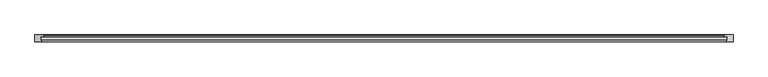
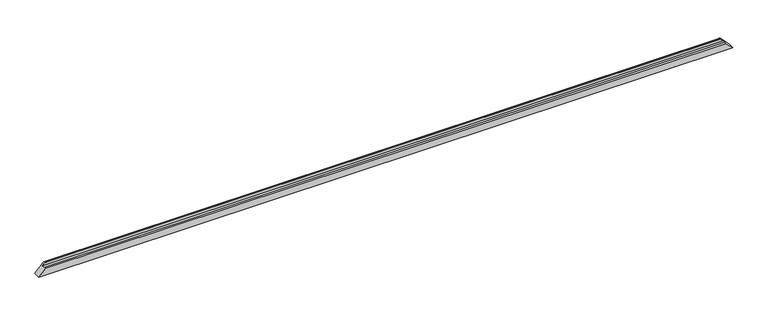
"""IFC4 building model written with IfcOpenShell, lengths in millimetres: proxy geometry, Weiku - Montante - Caixilho 02.2.01.005 : Weiku - Montante - Caixilho 02.2.01.005."""

import ifcopenshell
import ifcopenshell.guid

model = None  # the IFC model being written
_history = None  # IfcOwnerHistory: only IFC2X3 demands one
_inside = {}  # id of a spatial element -> (the spatial element, [elements in it])
_under = {}  # id of a project, library or spatial element -> (it, [spatial elements below it])
_declared = {}  # id of a project -> (the project, [libraries it declares])
_typed = {}  # id of a type object -> (the type object, [elements of that type])
_made_of = {}  # id of a material, layer set ... -> (it, [elements and type objects made of it])


def new_model(schema):
    """Start an empty IFC model of exactly this schema.

    Asked for "IFC4X3", IfcOpenShell would pick the latest addendum, in which some entities
    have other attributes; the version numbers below select the first issue.
    IFC2X3 requires an IfcOwnerHistory on every rooted entity: one is made here for all.
    """
    global model, _history
    if schema == "IFC4X3":
        model = ifcopenshell.file(schema_version=(4, 3, 0, 0))
    else:
        model = ifcopenshell.file(schema=schema)
    _inside.clear()
    _under.clear()
    _declared.clear()
    _typed.clear()
    _made_of.clear()
    _history = None
    if model.schema == "IFC2X3":
        org = make("IfcOrganization", Name="unknown")
        user = make(
            "IfcPersonAndOrganization",
            ThePerson=make("IfcPerson", FamilyName="unknown"),
            TheOrganization=org,
        )
        app = make(
            "IfcApplication",
            ApplicationDeveloper=org,
            Version="unknown",
            ApplicationFullName="unknown",
            ApplicationIdentifier="unknown",
        )
        _history = make(
            "IfcOwnerHistory",
            OwningUser=user,
            OwningApplication=app,
            ChangeAction="ADDED",
            CreationDate=0,
        )
    return model


def make(cls, **values):
    """One entity of the class cls with the attributes given. An attribute that is None is left unset."""
    return model.create_entity(
        cls, **{name: value for name, value in values.items() if value is not None}
    )


def rooted(cls, **values):
    """An entity with a GlobalId (a new one), such as an element, a storey or a relation."""
    return make(cls, GlobalId=ifcopenshell.guid.new(), OwnerHistory=_history, **values)


def si_unit(unit_type, name, prefix=None):
    """IfcSIUnit, for example si_unit("LENGTHUNIT", "METRE", prefix="MILLI")."""
    return make("IfcSIUnit", UnitType=unit_type, Prefix=prefix, Name=name)


def assignment(units):
    """IfcUnitAssignment: the units of a project."""
    return None if units is None else make("IfcUnitAssignment", Units=units)


def point(xyz):
    """IfcCartesianPoint."""
    return None if xyz is None else make("IfcCartesianPoint", Coordinates=xyz)


def direction(xyz):
    """IfcDirection."""
    return None if xyz is None else make("IfcDirection", DirectionRatios=xyz)


def frame(location, z_axis=None, x_axis=None):
    """IfcAxis2Placement3D, a coordinate frame: its origin and axes. An axis left out is left unset."""
    return make(
        "IfcAxis2Placement3D",
        Location=point(location),
        Axis=direction(z_axis),
        RefDirection=direction(x_axis),
    )


def origin():
    """The frame at (0, 0, 0) with its axes left unset."""
    return frame((0.0, 0.0, 0.0))


def place(relative_to, where):
    """IfcLocalPlacement: puts the frame where relative to a parent placement (None: the world)."""
    return make(
        "IfcLocalPlacement", PlacementRelTo=relative_to, RelativePlacement=where
    )


def context(
    kind, dimensions, precision=None, world=None, true_north=None, identifier=None
):
    """IfcGeometricRepresentationContext, for example the 3D "Model" context."""
    return make(
        "IfcGeometricRepresentationContext",
        ContextIdentifier=identifier,
        ContextType=kind,
        CoordinateSpaceDimension=dimensions,
        Precision=precision,
        WorldCoordinateSystem=world,
        TrueNorth=true_north,
    )


def project(units=None, contexts=None):
    """IfcProject with its units and contexts."""
    return rooted(
        "IfcProject",
        Name="project",
        RepresentationContexts=contexts,
        UnitsInContext=assignment(units),
    )


def spatial(cls, under=None, at=None, **own):
    """A site, building, storey or space (cls), placed at a placement, below another one or the project."""
    s = rooted(cls, ObjectPlacement=at, **own)
    if under is not None:
        _under.setdefault(under.id(), (under, []))[1].append(s)
    return s


def ellipse_curve(where, semi_axis1, semi_axis2):
    """IfcEllipse in the frame where."""
    return make(
        "IfcEllipse", Position=where, SemiAxis1=semi_axis1, SemiAxis2=semi_axis2
    )


def shape(context_of_items, identifier, shape_type, items):
    """IfcShapeRepresentation: the items that make up one representation, for example the "Body"."""
    return make(
        "IfcShapeRepresentation",
        ContextOfItems=context_of_items,
        RepresentationIdentifier=identifier,
        RepresentationType=shape_type,
        Items=items,
    )


def source(mapping_origin, context_of_items, identifier, shape_type, items):
    """IfcRepresentationMap: a shape defined once, which mapped items show again and again."""
    return make(
        "IfcRepresentationMap",
        MappingOrigin=mapping_origin,
        MappedRepresentation=shape(context_of_items, identifier, shape_type, items),
    )


def transform(
    local_origin,
    x_axis=None,
    y_axis=None,
    z_axis=None,
    scale=None,
    scale2=None,
    scale3=None,
    uniform=True,
):
    """IfcCartesianTransformationOperator3D, or its non-uniform kind. x_axis, y_axis, z_axis: its Axis1, 2, 3."""
    if uniform:
        return make(
            "IfcCartesianTransformationOperator3D",
            Axis1=direction(x_axis),
            Axis2=direction(y_axis),
            LocalOrigin=point(local_origin),
            Scale=scale,
            Axis3=direction(z_axis),
        )
    return make(
        "IfcCartesianTransformationOperator3DnonUniform",
        Axis1=direction(x_axis),
        Axis2=direction(y_axis),
        LocalOrigin=point(local_origin),
        Scale=scale,
        Axis3=direction(z_axis),
        Scale2=scale2,
        Scale3=scale3,
    )


def mapped(mapping_source, mapping_target):
    """IfcMappedItem: shows the shape of a source again, moved by a transform."""
    return make(
        "IfcMappedItem", MappingSource=mapping_source, MappingTarget=mapping_target
    )


def made_of(thing, what):
    """Note that an element or type object is made of a material, layer set ...; save() writes the relation."""
    if what is not None:
        _made_of.setdefault(what.id(), (what, []))[1].append(thing)
    return thing


def element(
    cls,
    number,
    at=None,
    inside=None,
    cuts=None,
    type_object=None,
    material=None,
    context=None,
    identifier="Body",
    shape_type=None,
    held_by="IfcProductDefinitionShape",
    body=None,
    shapes=None,
    **own,
):
    """One element of the class cls, such as IfcWall. Its Tag is "e" and its number.

    at: its placement. inside: the storey or other place that contains it. cuts: it is an
    opening in that element (IfcRelVoidsElement). A single representation is given by context,
    identifier, shape_type and body (its items); several are given by shapes. held_by: the class
    of the entity that holds the representations. save() writes the other relations.
    """
    e = rooted(cls, Tag="e%d" % number, ObjectPlacement=at, **own)
    if body is not None:
        shapes = [shape(context, identifier, shape_type, body)]
    if shapes is not None:
        e.Representation = make(held_by, Representations=shapes)
    if inside is not None:
        _inside.setdefault(inside.id(), (inside, []))[1].append(e)
    if cuts is not None:
        rooted(
            "IfcRelVoidsElement", RelatingBuildingElement=cuts, RelatedOpeningElement=e
        )
    if type_object is not None:
        _typed.setdefault(type_object.id(), (type_object, []))[1].append(e)
    return made_of(e, material)


def aggregate(whole, parts):
    """IfcRelAggregates: a whole, such as a stair, and the parts it consists of."""
    return rooted("IfcRelAggregates", RelatingObject=whole, RelatedObjects=parts)


def save(model, path):
    """Write the relations noted so far, then the file.

    IfcRelAggregates (storeys below a building ...), IfcRelContainedInSpatialStructure (elements
    in a storey), IfcRelDefinesByType, IfcRelAssociatesMaterial and IfcRelDeclares: one each for
    every whole, place, type object, material and project.
    """
    for whole, parts in _under.values():
        aggregate(whole, parts)
    for where, things in _inside.values():
        rooted(
            "IfcRelContainedInSpatialStructure",
            RelatedElements=things,
            RelatingStructure=where,
        )
    for kind, things in _typed.values():
        rooted("IfcRelDefinesByType", RelatedObjects=things, RelatingType=kind)
    for what, things in _made_of.values():
        rooted("IfcRelAssociatesMaterial", RelatedObjects=things, RelatingMaterial=what)
    for by, libraries in _declared.values():
        rooted("IfcRelDeclares", RelatingContext=by, RelatedDefinitions=libraries)
    model.write(path)


def plane_surface(at):
    """IfcPlane: the flat surface through the origin of the frame at, square to its z axis."""
    return make("IfcPlane", Position=at)


def cylinder_surface(at, radius):
    """IfcCylindricalSurface: all points at the distance radius from the z axis of the frame at."""
    return make("IfcCylindricalSurface", Position=at, Radius=radius)


def advanced_brep(points, edges, surfaces, faces):
    """IfcAdvancedBrep: a solid bounded by faces that lie on surfaces and meet in shared edges.

    An edge is (start, end): straight between two places in points (the first is 0);
    or (start, end, curve); or (start, end, curve, False) where it runs against its curve.
    A face is (place in surfaces, loops), or (place, loops, False) where it looks against
    its surface's normal. A loop lists edges by number (the first is 1), with a minus sign
    where the edge is run from its end to its start. The first loop is the outer one.
    """
    corners = [point(p) for p in points]
    vertices = [make("IfcVertexPoint", VertexGeometry=c) for c in corners]
    made = []
    for start, end, *more in edges:
        made.append(
            make(
                "IfcEdgeCurve",
                EdgeStart=vertices[start],
                EdgeEnd=vertices[end],
                EdgeGeometry=more[0] if more else make("IfcPolyline", Points=[corners[start], corners[end]]),
                SameSense=more[1] if len(more) > 1 else True,
            )
        )
    hull = []
    for where, loops, *sense in faces:
        bounds = []
        for j, loop in enumerate(loops):
            ring = [make("IfcOrientedEdge", EdgeElement=made[abs(k) - 1], Orientation=k > 0) for k in loop]
            bounds.append(
                make(
                    "IfcFaceOuterBound" if j == 0 else "IfcFaceBound",
                    Bound=make("IfcEdgeLoop", EdgeList=ring),
                    Orientation=True,
                )
            )
        hull.append(make("IfcAdvancedFace", Bounds=bounds, FaceSurface=surfaces[where], SameSense=sense[0] if sense else True))
    return make("IfcAdvancedBrep", Outer=make("IfcClosedShell", CfsFaces=hull))


def generic_models_0c6a9ea4(model_context):
    return source(origin(), model_context, "Body", "AdvancedBrep", [
        advanced_brep(
        [(-2451.0, -12.5, 46.0), (2451.0, -12.5, 46.0), (2430.8909676, -12.5, 66.1090324), (-2430.8909676, -12.5, 66.1090324), (-2451.0, -37.8314286, 46.0), (2451.0, -37.8314286, 46.0), (-2448.0, -37.027581, 49.0), (2448.0, -37.027581, 49.0), (-2448.0, -50.0, 49.0), (2448.0, -50.0, 49.0), (2497.0, -50.0, 0.0), (-2497.0, -50.0, 0.0), (-2497.0, 0.0, 0.0), (2497.0, 0.0, 0.0), (-2435.4997332, 0.0, 61.5002668), (2435.4997332, 0.0, 61.5002668), (-2430.118227, -11.4929448, 66.881773), (2430.118227, -11.4929448, 66.881773), (2432.6019557, -2.2235429, 64.3980443), (-2432.6019557, -2.2235429, 64.3980443)],
        [
            (0, 1),
            (1, 2),
            (2, 3),
            (3, 0),
            (4, 5),
            (5, 1),
            (0, 4),
            (6, 7),
            (7, 5),
            (4, 6),
            (8, 9),
            (9, 7),
            (6, 8),
            (10, 9),
            (8, 11),
            (11, 10),
            (11, 12),
            (12, 13),
            (13, 10),
            (12, 14),
            (14, 15),
            (15, 13),
            (16, 17),
            (17, 18),
            (18, 19),
            (19, 16),
            (3, 16, ellipse_curve(frame((-2430.8909676, -11.7, 66.1090324), z_axis=(-0.7071067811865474, 0.0, 0.7071067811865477), x_axis=(-0.7071067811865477, 0.0, -0.7071067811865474)), 1.1313708, 0.8)),
            (19, 14, ellipse_curve(frame((-2435.4997332, -3.0, 61.5002668), z_axis=(-0.7071067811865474, 0.0, 0.7071067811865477), x_axis=(-0.7071067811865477, 0.0, -0.7071067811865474)), 4.2426407, 3.0)),
            (15, 18, ellipse_curve(frame((2435.4997332, -3.0, 61.5002668), z_axis=(0.7071067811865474, 0.0, 0.7071067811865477), x_axis=(-0.7071067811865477, 0.0, 0.7071067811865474)), 4.2426407, 3.0)),
            (17, 2, ellipse_curve(frame((2430.8909676, -11.7, 66.1090324), z_axis=(0.7071067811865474, 0.0, 0.7071067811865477), x_axis=(-0.7071067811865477, 0.0, 0.7071067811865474)), 1.1313708, 0.8)),
        ],
        [
            plane_surface(frame((-2497.0, -12.5, 66.1090324), z_axis=(0.0, -1.0, 0.0), x_axis=(1.0, 0.0, 0.0))),
            plane_surface(frame((-2497.0, -12.5, 46.0), z_axis=(0.0, 0.0, 1.0), x_axis=(1.0, 0.0, 0.0))),
            plane_surface(frame((-2497.0, -37.8314286, 46.0), z_axis=(0.0, 0.9659258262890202, -0.2588190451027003), x_axis=(1.0, 0.0, 0.0))),
            plane_surface(frame((-2497.0, -37.027581, 49.0), z_axis=(0.0, 0.0, 1.0), x_axis=(1.0, 0.0, 0.0))),
            plane_surface(frame((-2497.0, -50.0, 49.0), z_axis=(0.0, -1.0, 0.0), x_axis=(1.0, 0.0, 0.0))),
            plane_surface(frame((-2497.0, -50.0, 0.0), z_axis=(0.0, 0.0, -1.0), x_axis=(1.0, 0.0, 0.0))),
            plane_surface(frame((-2497.0, 0.0, 0.0), z_axis=(0.0, 1.0, 0.0), x_axis=(1.0, 0.0, 0.0))),
            plane_surface(frame((-2497.0, -2.2235429, 64.3980443), z_axis=(0.0, 0.2588190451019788, 0.9659258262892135), x_axis=(1.0, 0.0, 0.0))),
            plane_surface(frame((-2567.0, 15.0, -70.0), z_axis=(-0.7071067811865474, 0.0, 0.7071067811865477), x_axis=(0.0, -1.0, 0.0))),
            plane_surface(frame((2427.0, 15.0, 70.0), z_axis=(0.7071067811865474, 0.0, 0.7071067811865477), x_axis=(0.0, -1.0, 0.0))),
            cylinder_surface(frame((-2497.0, -11.7, 66.1090324), z_axis=(-1.0, 0.0, 0.0), x_axis=(0.0, -1.0, 0.0)), 0.8),
            cylinder_surface(frame((-2497.0, -3.0, 61.5002668), z_axis=(-1.0, 0.0, 0.0), x_axis=(0.0, -1.0, 0.0)), 3.0),
        ],
        [
            (0, [[1, 2, 3, 4]]),
            (1, [[5, 6, -1, 7]]),
            (2, [[8, 9, -5, 10]]),
            (3, [[11, 12, -8, 13]]),
            (4, [[14, -11, 15, 16]]),
            (5, [[17, 18, 19, -16]]),
            (6, [[20, 21, 22, -18]]),
            (7, [[23, 24, 25, 26]]),
            (8, [[27, -26, 28, -20, -17, -15, -13, -10, -7, -4]]),
            (9, [[-6, -9, -12, -14, -19, -22, 29, -24, 30, -2]]),
            (10, [[-3, -30, -23, -27]]),
            (11, [[-25, -29, -21, -28]]),
        ],
    ),
    ])


if __name__ == "__main__":
    model = new_model("IFC4")
    model_context = context("Model", 3, world=origin())
    ifc_project = project(units=[si_unit("LENGTHUNIT", "METRE", prefix="MILLI")], contexts=[model_context])
    site = spatial("IfcSite", under=ifc_project)
    building = spatial("IfcBuilding", under=site)
    placement = place(None, origin())
    generic_models_shape = generic_models_0c6a9ea4(model_context)
    element("IfcBuildingElementProxy", 1, Name="Weiku - Montante - Caixilho 02.2.01.005 : Weiku - Montante - Caixilho 02.2.01.005", ObjectType="Weiku - Montante - Caixilho 02.2.01.005 : Weiku - Montante - Caixilho 02.2.01.005", at=placement, inside=building, context=model_context, shape_type="MappedRepresentation", body=[
        mapped(generic_models_shape, transform((0.0, 0.0, 0.0), x_axis=(1.0, 0.0, 0.0), y_axis=(0.0, 1.0, 0.0), z_axis=(0.0, 0.0, 1.0))),
    ])
    save(model, "model.ifc")
